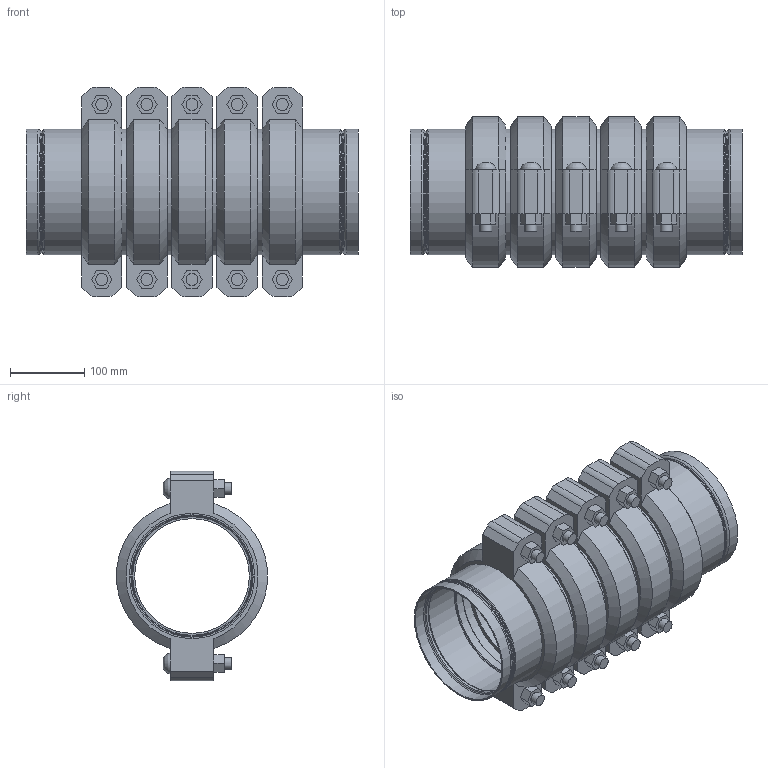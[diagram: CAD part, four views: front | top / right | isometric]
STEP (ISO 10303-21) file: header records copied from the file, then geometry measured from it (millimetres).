
FILE_DESCRIPTION(/* description */ ('VIC STRENGTHIN 100 EXPANSION JOINT 5 COUPLINGS COMPRESSED STYLE E155 (ST1)','CAx-IF Rec.Pracs.---Representation and Presentation of Product Manufacturing Information (PMI)---4.0---2014-10-13'),/* implementation_level */ '2;1');
FILE_NAME(/* name */ 'C:\Users\Vjadhav\AppData\Roaming\Autodesk\ApplicationPlugins\Victaulic.Temp\A149\Victaulic_SS-StrengThin 100_Expansion Joint_Compressed_5 Couplings_Style E155 (ST1)_6 (150).stp',/* time_stamp */ '2021-07-23T12:32:46+05:00',/* author */ ('kkamble'),/* organization */ ('Victaulic'),/* preprocessor_version */ 'ST-DEVELOPER v17.2',/* originating_system */ 'Autodesk Inventor 2019',/* authorisation */ '');
FILE_SCHEMA (('AP242_MANAGED_MODEL_BASED_3D_ENGINEERING_MIM_LF { 1 0 10303 442 1 1 4 }'));
Length unit declared in the file: inch
Products named in the file (4): E155-06.0; E494G-06.0; Nipple-06.0; 075-06.0
Assembly tree (11 placements, depth 2):
  E155-06.0
    E494G-06.0  x2
    Nipple-06.0  x4
    075-06.0  x5
Bounding box: 445.77 x 202.46 x 281.18 mm (x, y, z)
Volume: 4766320.5 mm3; surface area: 1066631.8 mm2
Topology: 11 solids, 21 shells, 381 faces, 977 edges, 692 vertices
Faces by surface type: plane 206, cylinder 109, torus 32, cone 24, bspline 10
Full cylindrical faces by diameter (mm): 15.875 x20, 17.424 x10, 154.051 x4, 159.258 x2, 159.944 x2, 163.271 x2, 163.957 x10, 164.262 x6, 168.275 x23
Entity records: 3647 total; most frequent: DIRECTION 647, CARTESIAN_POINT 643, ORIENTED_EDGE 536, AXIS2_PLACEMENT_3D 275, EDGE_CURVE 268, VERTEX_POINT 193, CIRCLE 163, EDGE_LOOP 123
